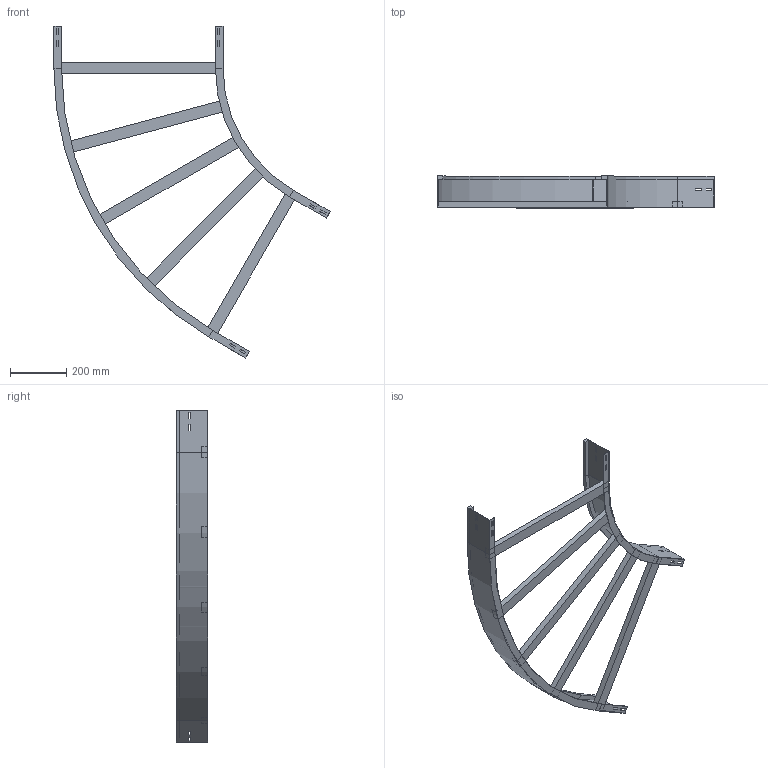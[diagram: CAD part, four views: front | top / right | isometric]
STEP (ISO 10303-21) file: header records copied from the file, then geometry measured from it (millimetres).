
FILE_DESCRIPTION (( 'STEP AP214' ), '1' );
FILE_NAME ('13B5J600.step', '2025-02-21T15:19:01', ( '' ), ( '' ), 'SwSTEP 2.0', 'SolidWorks 2023', '' );
FILE_SCHEMA (( 'AUTOMOTIVE_DESIGN' ));
Length unit declared in the file: millimetre
Products named in the file (4): A2_LONGH.INTERNO 60°_H112.5_R500; 13B5J600; A2_LONGH.ESTERNO 60°_H112.5_R500+600; TRAVERSINO_600
Assembly tree (7 placements, depth 2):
  13B5J600
    A2_LONGH.INTERNO 60°_H112.5_R500
    A2_LONGH.ESTERNO 60°_H112.5_R500+600
    TRAVERSINO_600  x5
Bounding box: 979.9 x 112.5 x 1177.63 mm (x, y, z)
Volume: 3471538 mm3; surface area: 1075161.5 mm2
Topology: 7 solids, 7 shells, 146 faces, 364 edges, 232 vertices
Faces by surface type: plane 138, cylinder 8
Entity records: 3837 total; most frequent: CARTESIAN_POINT 648, ORIENTED_EDGE 632, DIRECTION 596, EDGE_CURVE 316, LINE 300, VECTOR 300, VERTEX_POINT 200, EDGE_LOOP 154
